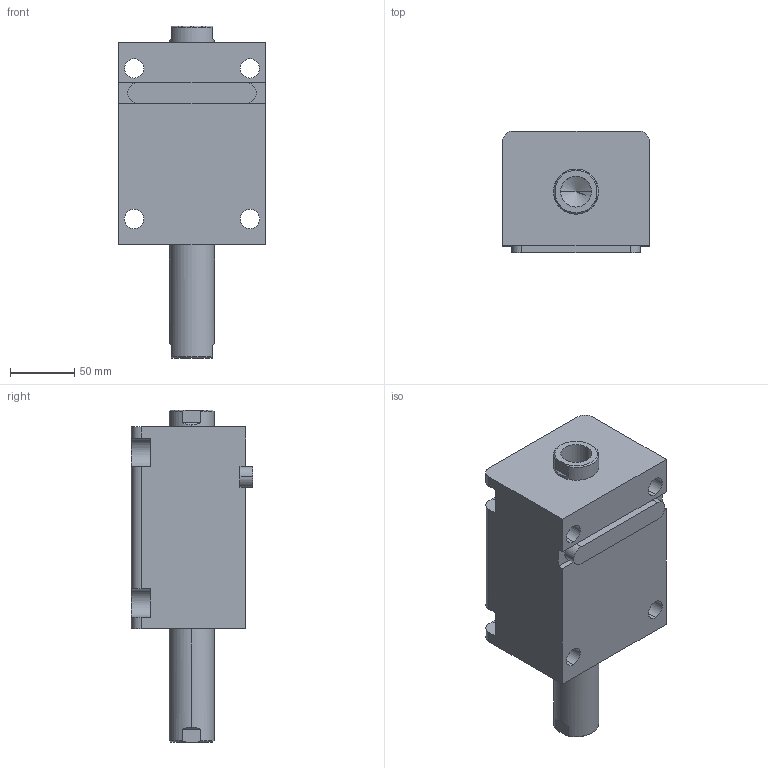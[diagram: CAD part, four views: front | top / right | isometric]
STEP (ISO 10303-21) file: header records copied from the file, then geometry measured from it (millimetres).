
FILE_DESCRIPTION (( 'STEP AP203' ), '1' );
FILE_NAME ('HTB-LW63-75N.STEP', '2019-10-09T08:28:26', ( '微软用户' ), ( '微软中国' ), 'SwSTEP 2.0', 'SolidWorks 2012', '' );
FILE_SCHEMA (( 'CONFIG_CONTROL_DESIGN' ));
Length unit declared in the file: millimetre
Products named in the file (4): HTB-LW63-75N; HTB-LA63-瑩; HTB-LW63-75N活塞杆; HTB-LW63-75掛极
Assembly tree (3 placements, depth 2):
  HTB-LW63-75N
    HTB-LW63-75掛极
    HTB-LW63-75N活塞杆
    HTB-LA63-瑩
Bounding box: 114 x 94.5 x 258 mm (x, y, z)
Volume: 1413106.5 mm3; surface area: 174700.8 mm2
Topology: 3 solids, 3 shells, 101 faces, 253 edges, 164 vertices
Faces by surface type: plane 44, cylinder 41, cone 12, torus 4
Entity records: 3467 total; most frequent: CARTESIAN_POINT 576, DIRECTION 549, ORIENTED_EDGE 498, EDGE_CURVE 249, AXIS2_PLACEMENT_3D 209, VERTEX_POINT 164, LINE 131, VECTOR 131
